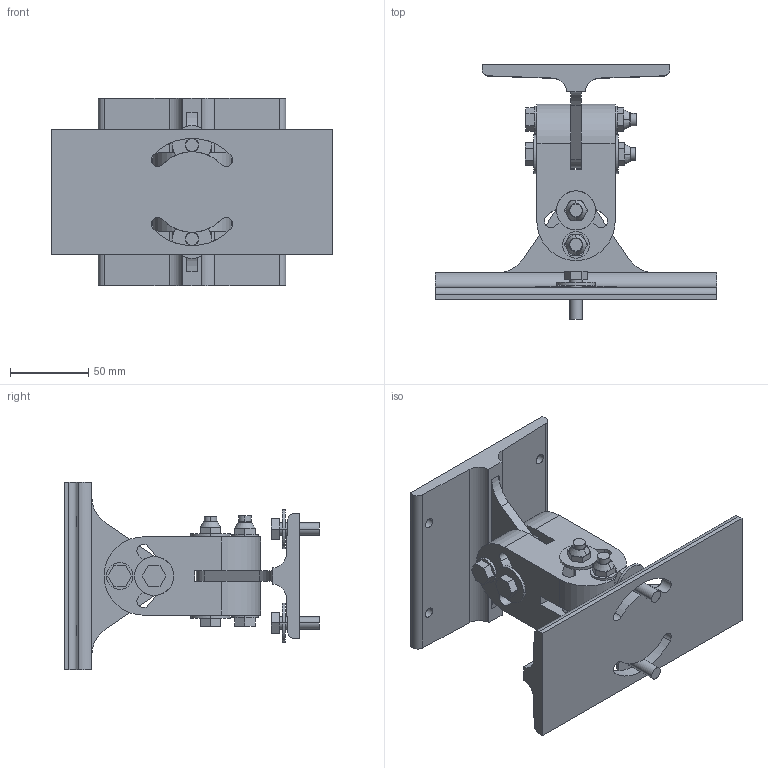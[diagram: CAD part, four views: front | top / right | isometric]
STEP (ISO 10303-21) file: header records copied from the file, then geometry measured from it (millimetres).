
FILE_DESCRIPTION((''),'2;1');
FILE_NAME('99901-1MP50JUSTAGEFUS_SW0001','2012-09-18T',('RKuepper'),(''),'PRO/ENGINEER BY PARAMETRIC TECHNOLOGY CORPORATION, 2010180','PRO/ENGINEER BY PARAMETRIC TECHNOLOGY CORPORATION, 2010180','');
FILE_SCHEMA(('CONFIG_CONTROL_DESIGN'));
Length unit declared in the file: millimetre
Products named in the file (1): 99901-1MP50JUSTAGEFUS_SW0001
Bounding box: 180 x 162.4 x 120 mm (x, y, z)
Volume: 481142.7 mm3; surface area: 127850.5 mm2
Topology: 5 solids, 5 shells, 278 faces, 720 edges, 468 vertices
Faces by surface type: plane 144, cylinder 118, cone 8, torus 8
Entity records: 9058 total; most frequent: CARTESIAN_POINT 1878, DIRECTION 1564, ORIENTED_EDGE 1440, EDGE_CURVE 720, AXIS2_PLACEMENT_3D 582, VERTEX_POINT 468, VECTOR 400, LINE 400
